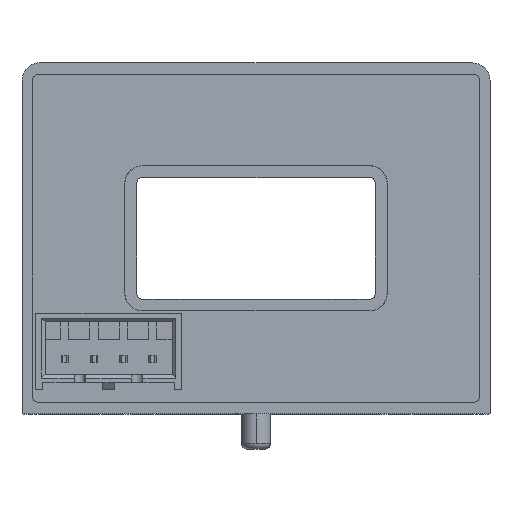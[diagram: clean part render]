
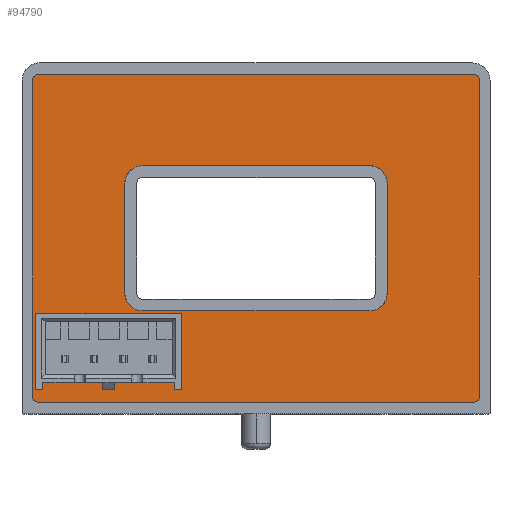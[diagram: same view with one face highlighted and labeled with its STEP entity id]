
A CAD part, top view. The second image highlights one B-rep face of the part: STEP entity #94790.
In plain terms, the highlighted planar face has unit normal (0, 0, 1) as drawn and (0, 0, -1) by its records, which use the part's own axes.
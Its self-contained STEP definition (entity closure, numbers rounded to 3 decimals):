
#120=CARTESIAN_POINT('',(18.598,13.999,
0.1));
#130=VERTEX_POINT('',#120);
#280=CARTESIAN_POINT('',(-18.598,13.999,
0.1));
#290=VERTEX_POINT('',#280);
#320=CARTESIAN_POINT('',(0.,13.999,0.1));
#330=DIRECTION('',(1.,0.,0.));
#340=VECTOR('',#330,1.);
#350=LINE('',#320,#340);
#360=EDGE_CURVE('',#290,#130,#350,.T.);
#1300=CARTESIAN_POINT('',(-9.714,6.214,
0.1));
#1310=VERTEX_POINT('',#1300);
#1480=CARTESIAN_POINT('',(9.714,6.214,
0.1));
#1490=VERTEX_POINT('',#1480);
#1520=CARTESIAN_POINT('',(0.,6.214,0.1));
#1530=DIRECTION('',(1.,0.,0.));
#1540=VECTOR('',#1530,1.);
#1550=LINE('',#1520,#1540);
#1560=EDGE_CURVE('',#1310,#1490,#1550,.T.);
#5880=CARTESIAN_POINT('',(-19.098,13.5,
0.1));
#5890=VERTEX_POINT('',#5880);
#5920=CARTESIAN_POINT('',(-18.598,13.499,
0.1));
#5930=DIRECTION('',(0.,0.,1.));
#5940=DIRECTION('',(0.958,-0.287,0.));
#5950=AXIS2_PLACEMENT_3D('',#5920,#5930,#5940);
#5960=ELLIPSE('',#5950,0.5,0.5);
#5970=EDGE_CURVE('',#290,#5890,#5960,.T.);
#19740=CARTESIAN_POINT('',(-9.714,-6.2,0.1));
#19750=VERTEX_POINT('',#19740);
#19910=CARTESIAN_POINT('',(-11.214,-4.7,0.1));
#19920=VERTEX_POINT('',#19910);
#19950=CARTESIAN_POINT('',(-9.714,-4.7,0.1));
#19960=DIRECTION('',(0.,0.,1.));
#19970=DIRECTION('',(1.,0.,0.));
#19980=AXIS2_PLACEMENT_3D('',#19950,#19960,#19970);
#19990=ELLIPSE('',#19980,1.5,1.5);
#20000=EDGE_CURVE('',#19920,#19750,#19990,.T.);
#39220=CARTESIAN_POINT('',(-18.598,-13.999,
0.1));
#39230=VERTEX_POINT('',#39220);
#39260=CARTESIAN_POINT('',(-18.598,-13.499,
0.1));
#39270=DIRECTION('',(0.,0.,1.));
#39280=DIRECTION('',(0.958,0.287,0.));
#39290=AXIS2_PLACEMENT_3D('',#39260,#39270,#39280);
#39300=ELLIPSE('',#39290,0.5,0.5);
#39310=CARTESIAN_POINT('',(-19.098,-13.5,
0.1));
#39320=VERTEX_POINT('',#39310);
#39330=EDGE_CURVE('',#39320,#39230,#39300,.T.);
#39860=CARTESIAN_POINT('',(18.598,-13.999,
0.1));
#39870=VERTEX_POINT('',#39860);
#40030=CARTESIAN_POINT('',(19.098,-13.5,
0.1));
#40040=VERTEX_POINT('',#40030);
#40070=CARTESIAN_POINT('',(18.598,-13.499,
0.1));
#40080=DIRECTION('',(0.,0.,1.));
#40090=DIRECTION('',(0.958,-0.287,0.));
#40100=AXIS2_PLACEMENT_3D('',#40070,#40080,#40090);
#40110=ELLIPSE('',#40100,0.5,0.5);
#40120=EDGE_CURVE('',#39870,#40040,#40110,.T.);
#45470=CARTESIAN_POINT('',(19.098,13.5,
0.1));
#45480=VERTEX_POINT('',#45470);
#45510=CARTESIAN_POINT('',(19.098,0.,0.1));
#45520=DIRECTION('',(0.,-1.,0.));
#45530=VECTOR('',#45520,1.);
#45540=LINE('',#45510,#45530);
#45550=EDGE_CURVE('',#45480,#40040,#45540,.T.);
#46260=CARTESIAN_POINT('',(9.714,-6.2,0.1));
#46270=VERTEX_POINT('',#46260);
#46370=CARTESIAN_POINT('',(0.,-6.2,0.1));
#46380=DIRECTION('',(1.,0.,0.));
#46390=VECTOR('',#46380,1.);
#46400=LINE('',#46370,#46390);
#46410=EDGE_CURVE('',#19750,#46270,#46400,.T.);
#53890=CARTESIAN_POINT('',(11.214,4.714,
0.1));
#53900=VERTEX_POINT('',#53890);
#53930=CARTESIAN_POINT('',(9.714,4.714,
0.1));
#53940=DIRECTION('',(0.,0.,1.));
#53950=DIRECTION('',(0.707,0.707,0.));
#53960=AXIS2_PLACEMENT_3D('',#53930,#53940,#53950);
#53970=ELLIPSE('',#53960,1.5,1.5);
#53980=EDGE_CURVE('',#53900,#1490,#53970,.T.);
#56200=CARTESIAN_POINT('',(-11.214,4.714,
0.1));
#56210=VERTEX_POINT('',#56200);
#56240=CARTESIAN_POINT('',(-11.214,0.,0.1));
#56250=DIRECTION('',(0.,1.,0.));
#56260=VECTOR('',#56250,1.);
#56270=LINE('',#56240,#56260);
#56280=EDGE_CURVE('',#19920,#56210,#56270,.T.);
#57600=CARTESIAN_POINT('',(-9.714,4.714,
0.1));
#57610=DIRECTION('',(0.,0.,1.));
#57620=DIRECTION('',(-0.707,0.707,0.));
#57630=AXIS2_PLACEMENT_3D('',#57600,#57610,#57620);
#57640=ELLIPSE('',#57630,1.5,1.5);
#57650=EDGE_CURVE('',#1310,#56210,#57640,.T.);
#59700=CARTESIAN_POINT('',(18.598,13.499,
0.1));
#59710=DIRECTION('',(0.,0.,1.));
#59720=DIRECTION('',(0.958,0.287,0.));
#59730=AXIS2_PLACEMENT_3D('',#59700,#59710,#59720);
#59740=ELLIPSE('',#59730,0.5,0.5);
#59750=EDGE_CURVE('',#45480,#130,#59740,.T.);
#63540=CARTESIAN_POINT('',(11.214,-4.7,0.1));
#63550=VERTEX_POINT('',#63540);
#63580=CARTESIAN_POINT('',(11.214,0.,0.1));
#63590=DIRECTION('',(0.,1.,0.));
#63600=VECTOR('',#63590,1.);
#63610=LINE('',#63580,#63600);
#63620=EDGE_CURVE('',#63550,#53900,#63610,.T.);
#68620=CARTESIAN_POINT('',(0.,-13.999,0.1));
#68630=DIRECTION('',(-1.,0.,0.));
#68640=VECTOR('',#68630,1.);
#68650=LINE('',#68620,#68640);
#68660=EDGE_CURVE('',#39870,#39230,#68650,.T.);
#86950=CARTESIAN_POINT('',(-19.098,0.,0.1));
#86960=DIRECTION('',(0.,1.,0.));
#86970=VECTOR('',#86960,1.);
#86980=LINE('',#86950,#86970);
#86990=EDGE_CURVE('',#39320,#5890,#86980,.T.);
#87460=CARTESIAN_POINT('',(9.714,-4.7,0.1));
#87470=DIRECTION('',(0.,0.,1.));
#87480=DIRECTION('',(1.,0.,0.));
#87490=AXIS2_PLACEMENT_3D('',#87460,#87470,#87480);
#87500=ELLIPSE('',#87490,1.5,1.5);
#87510=EDGE_CURVE('',#46270,#63550,#87500,.T.);
#94200=CARTESIAN_POINT('',(-20.2,-15.15,0.1));
#94210=DIRECTION('',(0.,0.,1.));
#94220=DIRECTION('',(1.,0.,0.));
#94230=AXIS2_PLACEMENT_3D('',#94200,#94210,#94220);
#94240=PLANE('',#94230);
#94250=ORIENTED_EDGE('',*,*,#68660,.T.);
#94260=ORIENTED_EDGE('',*,*,#40120,.F.);
#94270=ORIENTED_EDGE('',*,*,#45550,.T.);
#94280=ORIENTED_EDGE('',*,*,#59750,.F.);
#94290=ORIENTED_EDGE('',*,*,#360,.T.);
#94300=ORIENTED_EDGE('',*,*,#5970,.F.);
#94310=ORIENTED_EDGE('',*,*,#86990,.T.);
#94320=ORIENTED_EDGE('',*,*,#39330,.F.);
#94330=EDGE_LOOP('',(#94320,#94310,#94300,#94290,#94280,#94270,#94260,
#94250));
#94340=FACE_OUTER_BOUND('',#94330,.T.);
#94350=ORIENTED_EDGE('',*,*,#63620,.T.);
#94360=ORIENTED_EDGE('',*,*,#87510,.T.);
#94370=ORIENTED_EDGE('',*,*,#46410,.T.);
#94380=ORIENTED_EDGE('',*,*,#20000,.T.);
#94390=ORIENTED_EDGE('',*,*,#56280,.F.);
#94400=ORIENTED_EDGE('',*,*,#57650,.T.);
#94410=ORIENTED_EDGE('',*,*,#1560,.F.);
#94420=ORIENTED_EDGE('',*,*,#53980,.T.);
#94430=EDGE_LOOP('',(#94420,#94410,#94400,#94390,#94380,#94370,#94360,
#94350));
#94440=FACE_BOUND('',#94430,.T.);
#94450=CARTESIAN_POINT('',(6.365,0.,0.1));
#94460=DIRECTION('',(0.,-1.,0.));
#94470=VECTOR('',#94460,1.);
#94480=LINE('',#94450,#94470);
#94490=CARTESIAN_POINT('',(6.365,-6.44,0.1
));
#94500=VERTEX_POINT('',#94490);
#94510=CARTESIAN_POINT('',(6.365,-12.34,
0.1));
#94520=VERTEX_POINT('',#94510);
#94530=EDGE_CURVE('',#94500,#94520,#94480,.T.);
#94540=ORIENTED_EDGE('',*,*,#94530,.T.);
#94550=CARTESIAN_POINT('',(0.,-6.44,0.1));
#94560=DIRECTION('',(1.,0.,-0.));
#94570=VECTOR('',#94560,1.);
#94580=LINE('',#94550,#94570);
#94590=CARTESIAN_POINT('',(18.825,-6.44,0.1
));
#94600=VERTEX_POINT('',#94590);
#94610=EDGE_CURVE('',#94500,#94600,#94580,.T.);
#94620=ORIENTED_EDGE('',*,*,#94610,.F.);
#94630=CARTESIAN_POINT('',(18.825,0.,0.1));
#94640=DIRECTION('',(-0.,1.,0.));
#94650=VECTOR('',#94640,1.);
#94660=LINE('',#94630,#94650);
#94670=CARTESIAN_POINT('',(18.825,-12.34,
0.1));
#94680=VERTEX_POINT('',#94670);
#94690=EDGE_CURVE('',#94680,#94600,#94660,.T.);
#94700=ORIENTED_EDGE('',*,*,#94690,.T.);
#94710=CARTESIAN_POINT('',(0.,-12.34,0.1));
#94720=DIRECTION('',(1.,0.,-0.));
#94730=VECTOR('',#94720,1.);
#94740=LINE('',#94710,#94730);
#94750=EDGE_CURVE('',#94520,#94680,#94740,.T.);
#94760=ORIENTED_EDGE('',*,*,#94750,.T.);
#94770=EDGE_LOOP('',(#94760,#94700,#94620,#94540));
#94780=FACE_BOUND('',#94770,.T.);
#94790=ADVANCED_FACE('',(#94340,#94440,#94780),#94240,.F.);
